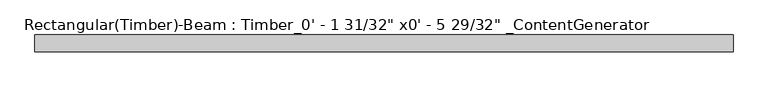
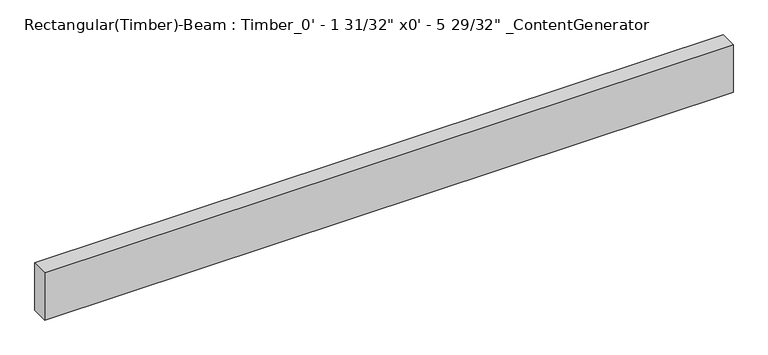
"""IFC4 building model written with IfcOpenShell, lengths in millimetres: beam geometry."""

from ifc_helpers import new_model, si_unit, frame, origin, place, context, project, spatial, polyline, outline, extrude, source, transform, mapped, element, save


def beam_836dcb35(model_context):
    return source(origin(), model_context, "Body", "SweptSolid", [
        extrude(outline(polyline([(1044.5703015, 25.4), (1044.5703015, -25.4), (-1044.5703015, -25.4), (-1044.5703015, 25.4), (1044.5703015, 25.4)])), frame((0.0, 0.0, -76.2), z_axis=(0.0, 0.0, 1.0), x_axis=(1.0, 0.0, 0.0)), (0.0, 0.0, 1.0), 152.4),
    ])


if __name__ == "__main__":
    model = new_model("IFC4")
    model_context = context("Model", 3, world=origin())
    ifc_project = project(units=[si_unit("LENGTHUNIT", "METRE", prefix="MILLI")], contexts=[model_context])
    site = spatial("IfcSite", under=ifc_project)
    building = spatial("IfcBuilding", under=site)
    placement = place(None, origin())
    beam_shape = beam_836dcb35(model_context)
    element("IfcBeam", 1, ObjectType="Rectangular(Timber)-Beam : Timber_0' - 1 31/32\" x0' - 5 29/32\" _ContentGenerator", at=placement, inside=building, context=model_context, shape_type="MappedRepresentation", body=[
        mapped(beam_shape, transform((0.0, 0.0, 0.0), x_axis=(1.0, 0.0, 0.0), y_axis=(0.0, 1.0, 0.0), z_axis=(0.0, 0.0, 1.0))),
    ])
    save(model, "model.ifc")
